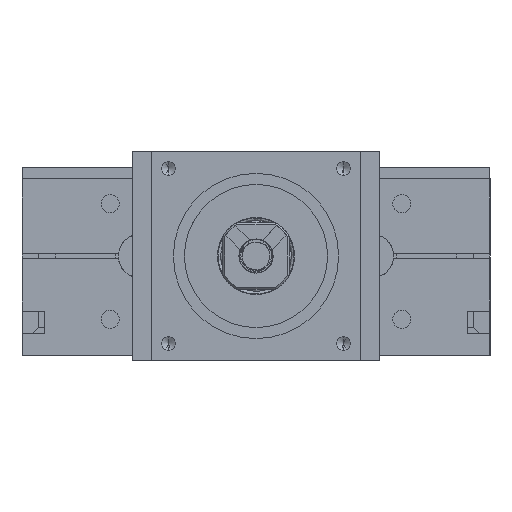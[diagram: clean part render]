
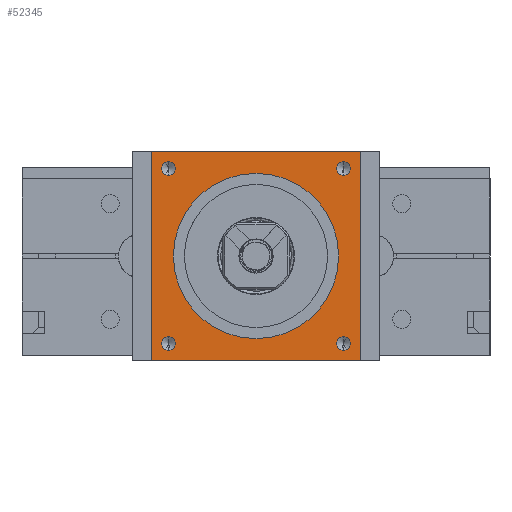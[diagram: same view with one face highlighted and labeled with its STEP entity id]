
A CAD part, left-side view. The second image highlights one B-rep face of the part: STEP entity #52345.
In plain terms, the highlighted planar face has unit normal (-1, 0, 0) as drawn and (0, -1, 0) by its records, which use the part's own axes.
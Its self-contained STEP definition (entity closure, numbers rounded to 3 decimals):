
#611 = ORIENTED_EDGE ( 'NONE', *, *, #22752, .F. ) ;
#1063 = ORIENTED_EDGE ( 'NONE', *, *, #58033, .F. ) ;
#1329 = DIRECTION ( 'NONE',  ( 0., 0., -1. ) ) ;
#2730 = CARTESIAN_POINT ( 'NONE',  ( 15.91, 0., 14.66 ) ) ;
#4046 = CARTESIAN_POINT ( 'NONE',  ( -22.5, 0., -19. ) ) ;
#4133 = DIRECTION ( 'NONE',  ( 0., -1., 0. ) ) ;
#4908 = AXIS2_PLACEMENT_3D ( 'NONE', #49330, #59758, #10920 ) ;
#5070 = AXIS2_PLACEMENT_3D ( 'NONE', #70150, #33082, #59858 ) ;
#5228 = CARTESIAN_POINT ( 'NONE',  ( 15.91, 0., -17.16 ) ) ;
#5480 = CARTESIAN_POINT ( 'NONE',  ( -15.91, 0., 14.66 ) ) ;
#5745 = VERTEX_POINT ( 'NONE', #33693 ) ;
#5808 = EDGE_CURVE ( 'NONE', #13650, #19539, #35597, .T. ) ;
#7048 = CARTESIAN_POINT ( 'NONE',  ( -15.91, 0., 15.91 ) ) ;
#8369 = CARTESIAN_POINT ( 'NONE',  ( 0., 0., 15. ) ) ;
#8507 = EDGE_CURVE ( 'NONE', #61026, #59344, #52143, .T. ) ;
#9036 = CARTESIAN_POINT ( 'NONE',  ( -22.5, 0., 19. ) ) ;
#9895 = AXIS2_PLACEMENT_3D ( 'NONE', #25929, #4133, #14162 ) ;
#10127 = ORIENTED_EDGE ( 'NONE', *, *, #18700, .F. ) ;
#10920 = DIRECTION ( 'NONE',  ( 0., 0., -1. ) ) ;
#11088 = FACE_BOUND ( 'NONE', #13458, .T. ) ;
#11371 = CARTESIAN_POINT ( 'NONE',  ( -19., 0., 19. ) ) ;
#11951 = CARTESIAN_POINT ( 'NONE',  ( 19., 0., -19. ) ) ;
#12158 = ORIENTED_EDGE ( 'NONE', *, *, #5808, .F. ) ;
#12265 = VERTEX_POINT ( 'NONE', #2730 ) ;
#12427 = CARTESIAN_POINT ( 'NONE',  ( -15.91, 0., 17.16 ) ) ;
#12816 = EDGE_CURVE ( 'NONE', #33566, #5745, #19511, .T. ) ;
#13458 = EDGE_LOOP ( 'NONE', ( #54044, #32184 ) ) ;
#13650 = VERTEX_POINT ( 'NONE', #5228 ) ;
#13746 = AXIS2_PLACEMENT_3D ( 'NONE', #14288, #58113, #58494 ) ;
#14162 = DIRECTION ( 'NONE',  ( 0., 0., -1. ) ) ;
#14239 = EDGE_CURVE ( 'NONE', #61026, #20629, #65882, .T. ) ;
#14288 = CARTESIAN_POINT ( 'NONE',  ( 15.91, 0., 15.91 ) ) ;
#15277 = EDGE_CURVE ( 'NONE', #12265, #39507, #59632, .T. ) ;
#16201 = EDGE_LOOP ( 'NONE', ( #41970, #611 ) ) ;
#16372 = EDGE_LOOP ( 'NONE', ( #42416, #22109 ) ) ;
#16964 = VECTOR ( 'NONE', #62526, 1000. ) ;
#18700 = EDGE_CURVE ( 'NONE', #61962, #41975, #25845, .T. ) ;
#19511 = CIRCLE ( 'NONE', #28604, 1.25 ) ;
#19539 = VERTEX_POINT ( 'NONE', #37827 ) ;
#20146 = DIRECTION ( 'NONE',  ( -1., 0., 0. ) ) ;
#20629 = VERTEX_POINT ( 'NONE', #50273 ) ;
#21860 = EDGE_CURVE ( 'NONE', #52966, #44214, #53805, .T. ) ;
#22088 = AXIS2_PLACEMENT_3D ( 'NONE', #30219, #52982, #52609 ) ;
#22109 = ORIENTED_EDGE ( 'NONE', *, *, #25939, .F. ) ;
#22410 = AXIS2_PLACEMENT_3D ( 'NONE', #45562, #40970, #25351 ) ;
#22658 = EDGE_CURVE ( 'NONE', #5745, #33566, #67661, .T. ) ;
#22752 = EDGE_CURVE ( 'NONE', #44214, #52966, #60850, .T. ) ;
#25351 = DIRECTION ( 'NONE',  ( 0., 0., -1. ) ) ;
#25845 = CIRCLE ( 'NONE', #22410, 15. ) ;
#25929 = CARTESIAN_POINT ( 'NONE',  ( 0., 0., 0. ) ) ;
#25939 = EDGE_CURVE ( 'NONE', #39507, #12265, #44395, .T. ) ;
#26325 = VECTOR ( 'NONE', #20146, 1000. ) ;
#26687 = EDGE_LOOP ( 'NONE', ( #10127, #30082 ) ) ;
#27001 = DIRECTION ( 'NONE',  ( 0., -1., 0. ) ) ;
#28604 = AXIS2_PLACEMENT_3D ( 'NONE', #31846, #44071, #1329 ) ;
#28868 = DIRECTION ( 'NONE',  ( 0., 0., -1. ) ) ;
#29463 = EDGE_LOOP ( 'NONE', ( #64461, #45999, #49593, #52105 ) ) ;
#29838 = EDGE_CURVE ( 'NONE', #41034, #59344, #48496, .T. ) ;
#30082 = ORIENTED_EDGE ( 'NONE', *, *, #63293, .F. ) ;
#30219 = CARTESIAN_POINT ( 'NONE',  ( 15.91, 0., 15.91 ) ) ;
#31470 = FACE_BOUND ( 'NONE', #16201, .T. ) ;
#31846 = CARTESIAN_POINT ( 'NONE',  ( -15.91, 0., -15.91 ) ) ;
#32184 = ORIENTED_EDGE ( 'NONE', *, *, #22658, .F. ) ;
#32340 = CARTESIAN_POINT ( 'NONE',  ( 15.91, 0., -15.91 ) ) ;
#32830 = FACE_BOUND ( 'NONE', #49383, .T. ) ;
#33082 = DIRECTION ( 'NONE',  ( 0., -1., 0. ) ) ;
#33566 = VERTEX_POINT ( 'NONE', #34755 ) ;
#33693 = CARTESIAN_POINT ( 'NONE',  ( -15.91, 0., -14.66 ) ) ;
#34539 = CIRCLE ( 'NONE', #55030, 1.25 ) ;
#34755 = CARTESIAN_POINT ( 'NONE',  ( -15.91, 0., -17.16 ) ) ;
#35597 = CIRCLE ( 'NONE', #4908, 1.25 ) ;
#36213 = DIRECTION ( 'NONE',  ( 0., 0., -1. ) ) ;
#37796 = CARTESIAN_POINT ( 'NONE',  ( 0., 0., 0. ) ) ;
#37827 = CARTESIAN_POINT ( 'NONE',  ( 15.91, 0., -14.66 ) ) ;
#38492 = DIRECTION ( 'NONE',  ( 0., 1., 0. ) ) ;
#38534 = CARTESIAN_POINT ( 'NONE',  ( 19., 0., 19. ) ) ;
#39276 = CARTESIAN_POINT ( 'NONE',  ( 19., 0., 19. ) ) ;
#39507 = VERTEX_POINT ( 'NONE', #51688 ) ;
#40970 = DIRECTION ( 'NONE',  ( 0., -1., 0. ) ) ;
#41034 = VERTEX_POINT ( 'NONE', #11951 ) ;
#41970 = ORIENTED_EDGE ( 'NONE', *, *, #21860, .F. ) ;
#41975 = VERTEX_POINT ( 'NONE', #8369 ) ;
#42416 = ORIENTED_EDGE ( 'NONE', *, *, #15277, .F. ) ;
#44071 = DIRECTION ( 'NONE',  ( 0., -1., 0. ) ) ;
#44214 = VERTEX_POINT ( 'NONE', #12427 ) ;
#44395 = CIRCLE ( 'NONE', #13746, 1.25 ) ;
#45415 = EDGE_CURVE ( 'NONE', #41034, #20629, #62524, .T. ) ;
#45562 = CARTESIAN_POINT ( 'NONE',  ( 0., 0., 0. ) ) ;
#45999 = ORIENTED_EDGE ( 'NONE', *, *, #45415, .F. ) ;
#48496 = LINE ( 'NONE', #38534, #52325 ) ;
#49330 = CARTESIAN_POINT ( 'NONE',  ( 15.91, 0., -15.91 ) ) ;
#49383 = EDGE_LOOP ( 'NONE', ( #12158, #1063 ) ) ;
#49593 = ORIENTED_EDGE ( 'NONE', *, *, #29838, .T. ) ;
#50273 = CARTESIAN_POINT ( 'NONE',  ( -19., 0., -19. ) ) ;
#51688 = CARTESIAN_POINT ( 'NONE',  ( 15.91, 0., 17.16 ) ) ;
#52105 = ORIENTED_EDGE ( 'NONE', *, *, #8507, .F. ) ;
#52143 = LINE ( 'NONE', #9036, #16964 ) ;
#52325 = VECTOR ( 'NONE', #70273, 1000. ) ;
#52345 = ADVANCED_FACE ( 'NONE', ( #11088, #32830, #54217, #31470, #69566, #54566 ), #64898, .F. ) ;
#52609 = DIRECTION ( 'NONE',  ( 0., 0., -1. ) ) ;
#52634 = CARTESIAN_POINT ( 'NONE',  ( -15.91, 0., 15.91 ) ) ;
#52966 = VERTEX_POINT ( 'NONE', #5480 ) ;
#52982 = DIRECTION ( 'NONE',  ( 0., -1., 0. ) ) ;
#53285 = CIRCLE ( 'NONE', #9895, 15. ) ;
#53805 = CIRCLE ( 'NONE', #62954, 1.25 ) ;
#54044 = ORIENTED_EDGE ( 'NONE', *, *, #12816, .F. ) ;
#54217 = FACE_BOUND ( 'NONE', #16372, .T. ) ;
#54566 = FACE_OUTER_BOUND ( 'NONE', #29463, .T. ) ;
#55030 = AXIS2_PLACEMENT_3D ( 'NONE', #32340, #27001, #66155 ) ;
#56241 = DIRECTION ( 'NONE',  ( 0., 0., -1. ) ) ;
#58033 = EDGE_CURVE ( 'NONE', #19539, #13650, #34539, .T. ) ;
#58113 = DIRECTION ( 'NONE',  ( 0., -1., 0. ) ) ;
#58494 = DIRECTION ( 'NONE',  ( 0., 0., -1. ) ) ;
#58883 = DIRECTION ( 'NONE',  ( 0., 0., 1. ) ) ;
#59344 = VERTEX_POINT ( 'NONE', #39276 ) ;
#59632 = CIRCLE ( 'NONE', #22088, 1.25 ) ;
#59758 = DIRECTION ( 'NONE',  ( 0., -1., 0. ) ) ;
#59858 = DIRECTION ( 'NONE',  ( 0., 0., -1. ) ) ;
#60116 = CARTESIAN_POINT ( 'NONE',  ( -19., 0., 19. ) ) ;
#60547 = DIRECTION ( 'NONE',  ( 0., -1., 0. ) ) ;
#60607 = VECTOR ( 'NONE', #28868, 1000. ) ;
#60850 = CIRCLE ( 'NONE', #65351, 1.25 ) ;
#61026 = VERTEX_POINT ( 'NONE', #60116 ) ;
#61962 = VERTEX_POINT ( 'NONE', #63495 ) ;
#62331 = AXIS2_PLACEMENT_3D ( 'NONE', #37796, #38492, #58883 ) ;
#62524 = LINE ( 'NONE', #4046, #26325 ) ;
#62526 = DIRECTION ( 'NONE',  ( 1., 0., 0. ) ) ;
#62954 = AXIS2_PLACEMENT_3D ( 'NONE', #7048, #60547, #56241 ) ;
#63293 = EDGE_CURVE ( 'NONE', #41975, #61962, #53285, .T. ) ;
#63495 = CARTESIAN_POINT ( 'NONE',  ( 0., 0., -15. ) ) ;
#64461 = ORIENTED_EDGE ( 'NONE', *, *, #14239, .T. ) ;
#64898 = PLANE ( 'NONE',  #62331 ) ;
#65351 = AXIS2_PLACEMENT_3D ( 'NONE', #52634, #69049, #36213 ) ;
#65882 = LINE ( 'NONE', #11371, #60607 ) ;
#66155 = DIRECTION ( 'NONE',  ( 0., 0., -1. ) ) ;
#67661 = CIRCLE ( 'NONE', #5070, 1.25 ) ;
#69049 = DIRECTION ( 'NONE',  ( 0., -1., 0. ) ) ;
#69566 = FACE_BOUND ( 'NONE', #26687, .T. ) ;
#70150 = CARTESIAN_POINT ( 'NONE',  ( -15.91, 0., -15.91 ) ) ;
#70273 = DIRECTION ( 'NONE',  ( 0., 0., 1. ) ) ;
